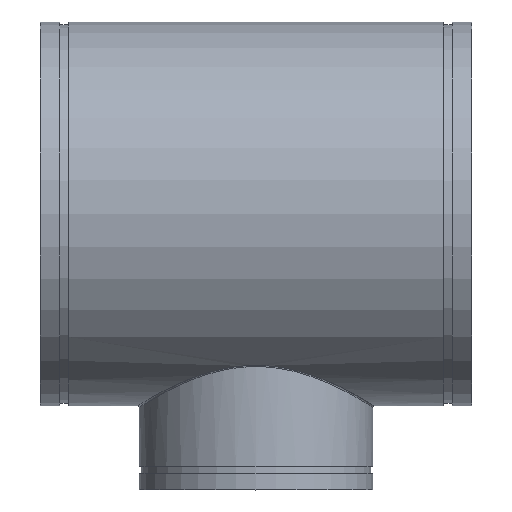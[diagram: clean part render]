
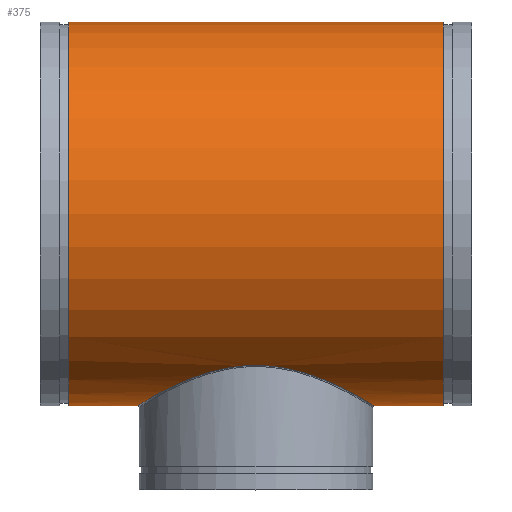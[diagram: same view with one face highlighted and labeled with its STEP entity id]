
A CAD part, top view. The second image highlights one B-rep face of the part: STEP entity #375.
In plain terms, the highlighted cylindrical face has radius 406.4 mm (diameter 812.8 mm), a full revolution.
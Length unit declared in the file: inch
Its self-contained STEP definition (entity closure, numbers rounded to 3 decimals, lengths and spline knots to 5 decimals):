
#54=FACE_BOUND('',#119,.T.);
#65=LINE('',#882,#76);
#76=VECTOR('',#483,16.);
#87=CYLINDRICAL_SURFACE('',#415,16.);
#98=FACE_OUTER_BOUND('',#118,.T.);
#118=EDGE_LOOP('',(#266,#267,#268,#269));
#119=EDGE_LOOP('',(#270));
#150=B_SPLINE_CURVE_WITH_KNOTS('',3,(#841,#842,#843,#844,#845,#846,#847,
#848,#849,#850,#851,#852,#853,#854,#855,#856,#857,#858,#859,#860,#861,#862,
#863,#864,#865,#866,#867,#868,#869,#870,#871,#872,#873,#874,#875,#876,#877),
 .UNSPECIFIED.,.T.,.F.,(4,1,1,1,1,1,1,1,1,1,1,1,1,1,1,1,1,1,1,1,1,1,1,1,
1,1,1,1,1,1,1,1,1,1,4),(-154.1702,-151.41716,-148.66412,
-143.15804,-137.65197,-132.14589,-124.80445,
-121.13373,-117.46301,-113.79229,-110.12157,
-106.45085,-102.78013,-95.4387,-88.09726,
-84.42654,-80.75582,-77.0851,-73.41438,
-69.74366,-66.07294,-58.73151,-51.39007,
-47.71935,-44.04863,-40.37791,-36.70719,
-33.03647,-29.36575,-22.02431,-16.51824,
-11.01216,-5.50608,-2.75304,0.),.UNSPECIFIED.);
#154=CIRCLE('',#416,16.);
#155=CIRCLE('',#417,16.);
#182=VERTEX_POINT('',#796);
#185=VERTEX_POINT('',#879);
#186=VERTEX_POINT('',#881);
#219=EDGE_CURVE('',#182,#182,#150,.T.);
#220=EDGE_CURVE('',#185,#185,#154,.T.);
#221=EDGE_CURVE('',#185,#186,#65,.T.);
#222=EDGE_CURVE('',#186,#186,#155,.T.);
#266=ORIENTED_EDGE('',*,*,#220,.T.);
#267=ORIENTED_EDGE('',*,*,#221,.T.);
#268=ORIENTED_EDGE('',*,*,#222,.T.);
#269=ORIENTED_EDGE('',*,*,#221,.F.);
#270=ORIENTED_EDGE('',*,*,#219,.F.);
#375=ADVANCED_FACE('',(#98,#54),#87,.T.);
#415=AXIS2_PLACEMENT_3D('',#878,#479,#480);
#416=AXIS2_PLACEMENT_3D('',#880,#481,#482);
#417=AXIS2_PLACEMENT_3D('',#883,#484,#485);
#479=DIRECTION('center_axis',(-1.,0.,0.));
#480=DIRECTION('ref_axis',(0.,-1.,0.));
#481=DIRECTION('center_axis',(1.,0.,0.));
#482=DIRECTION('ref_axis',(0.,-1.,0.));
#483=DIRECTION('',(1.,0.,0.));
#484=DIRECTION('center_axis',(-1.,0.,0.));
#485=DIRECTION('ref_axis',(0.,-1.,0.));
#796=CARTESIAN_POINT('',(0.,-12.64873,-9.79845));
#841=CARTESIAN_POINT('Ctrl Pts',(0.,-12.64873,
-9.79845));
#842=CARTESIAN_POINT('Ctrl Pts',(0.3799,-12.64873,-9.79845));
#843=CARTESIAN_POINT('Ctrl Pts',(1.13948,-12.68281,-9.75481));
#844=CARTESIAN_POINT('Ctrl Pts',(2.62789,-12.87925,-9.49664));
#845=CARTESIAN_POINT('Ctrl Pts',(4.37741,-13.33103,-8.87285));
#846=CARTESIAN_POINT('Ctrl Pts',(6.21414,-14.04504,-7.7145));
#847=CARTESIAN_POINT('Ctrl Pts',(7.91988,-14.87042,-6.03157));
#848=CARTESIAN_POINT('Ctrl Pts',(9.04668,-15.50632,-4.13985));
#849=CARTESIAN_POINT('Ctrl Pts',(9.65156,-15.86429,-2.24603));
#850=CARTESIAN_POINT('Ctrl Pts',(9.88462,-16.00594,-0.75719));
#851=CARTESIAN_POINT('Ctrl Pts',(9.88478,-16.00584,0.75702));
#852=CARTESIAN_POINT('Ctrl Pts',(9.65135,-15.86444,2.24633));
#853=CARTESIAN_POINT('Ctrl Pts',(9.19828,-15.5956,3.66569));
#854=CARTESIAN_POINT('Ctrl Pts',(8.32752,-15.09999,5.42051));
#855=CARTESIAN_POINT('Ctrl Pts',(6.80221,-14.29791,7.29225));
#856=CARTESIAN_POINT('Ctrl Pts',(4.80944,-13.47413,8.65288));
#857=CARTESIAN_POINT('Ctrl Pts',(2.9831,-12.96612,9.37969));
#858=CARTESIAN_POINT('Ctrl Pts',(1.51944,-12.70968,9.72046));
#859=CARTESIAN_POINT('Ctrl Pts',(-0.00008,-12.61814,
9.83754));
#860=CARTESIAN_POINT('Ctrl Pts',(-1.51965,-12.70972,9.72041));
#861=CARTESIAN_POINT('Ctrl Pts',(-2.98319,-12.96611,9.37972));
#862=CARTESIAN_POINT('Ctrl Pts',(-4.80972,-13.47424,8.65267));
#863=CARTESIAN_POINT('Ctrl Pts',(-6.80213,-14.29787,7.29243));
#864=CARTESIAN_POINT('Ctrl Pts',(-8.32771,-15.10006,5.42026));
#865=CARTESIAN_POINT('Ctrl Pts',(-9.1983,-15.59563,3.66559));
#866=CARTESIAN_POINT('Ctrl Pts',(-9.65135,-15.86443,2.24635));
#867=CARTESIAN_POINT('Ctrl Pts',(-9.88477,-16.00584,0.757));
#868=CARTESIAN_POINT('Ctrl Pts',(-9.88463,-16.00594,-0.75718));
#869=CARTESIAN_POINT('Ctrl Pts',(-9.65154,-15.86431,-2.24611));
#870=CARTESIAN_POINT('Ctrl Pts',(-9.04669,-15.50629,-4.13979));
#871=CARTESIAN_POINT('Ctrl Pts',(-7.91984,-14.8704,-6.03162));
#872=CARTESIAN_POINT('Ctrl Pts',(-6.21413,-14.04504,-7.71451));
#873=CARTESIAN_POINT('Ctrl Pts',(-4.37732,-13.331,-8.8729));
#874=CARTESIAN_POINT('Ctrl Pts',(-2.62794,-12.87927,-9.49661));
#875=CARTESIAN_POINT('Ctrl Pts',(-1.13946,-12.6828,-9.75482));
#876=CARTESIAN_POINT('Ctrl Pts',(-0.3799,-12.64873,-9.79845));
#877=CARTESIAN_POINT('Ctrl Pts',(0.,-12.64873,
-9.79845));
#878=CARTESIAN_POINT('Origin',(18.,0.,0.));
#879=CARTESIAN_POINT('',(-15.625,16.,0.));
#880=CARTESIAN_POINT('Origin',(-15.625,0.,0.));
#881=CARTESIAN_POINT('',(15.625,16.,0.));
#882=CARTESIAN_POINT('',(18.,16.,0.));
#883=CARTESIAN_POINT('Origin',(15.625,0.,0.));
